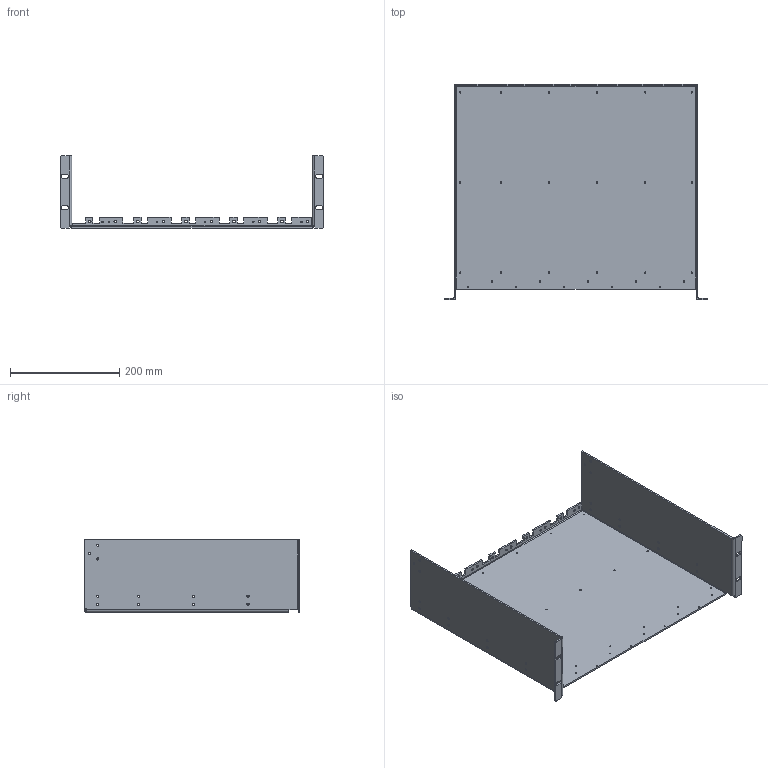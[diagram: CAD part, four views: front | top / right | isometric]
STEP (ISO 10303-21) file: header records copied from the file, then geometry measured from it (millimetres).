
FILE_DESCRIPTION(/* description */ ('','CAx-IF Rec.Pracs.---Representation and Presentation of Product Manufacturing Information (PMI)---4.0---2014-10-13'),/* implementation_level */ '2;1');
FILE_NAME(/* name */ 'E:\CAMTEC_2020_Pack and Go\Subrack_3U\2021076004.stp',/* time_stamp */ '2020-09-21T17:54:33+02:00',/* author */ ('rryba'),/* organization */ (''),/* preprocessor_version */ 'ST-DEVELOPER v18.1',/* originating_system */ 'Autodesk Inventor 2021',/* authorisation */ '');
FILE_SCHEMA (('AP242_MANAGED_MODEL_BASED_3D_ENGINEERING_MIM_LF { 1 0 10303 442 1 1 4 }'));
Length unit declared in the file: millimetre
Products named in the file (1): 2021076004
Bounding box: 483 x 395 x 132.5 mm (x, y, z)
Volume: 831326.4 mm3; surface area: 564484.6 mm2
Topology: 1 solids, 1 shells, 182 faces, 570 edges, 459 vertices
Faces by surface type: plane 92, cylinder 90
Full cylindrical faces by diameter (mm): 2.459 x28, 3.242 x6, 4.134 x22, 5 x10
Entity records: 6450 total; most frequent: CARTESIAN_POINT 1150, DIRECTION 1055, ORIENTED_EDGE 1002, EDGE_CURVE 501, AXIS2_PLACEMENT_3D 368, EDGE_LOOP 322, VERTEX_POINT 321, LINE 319
